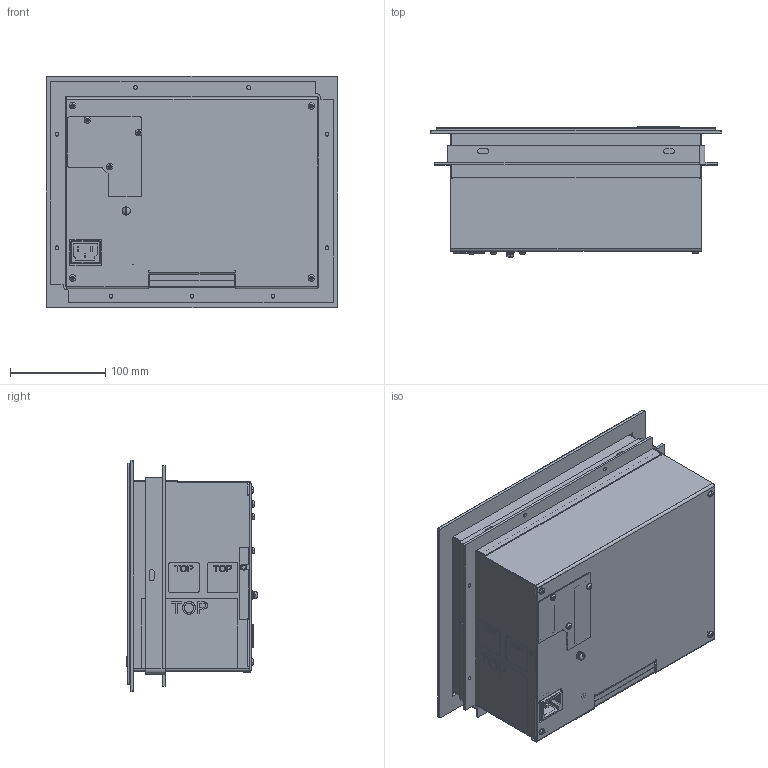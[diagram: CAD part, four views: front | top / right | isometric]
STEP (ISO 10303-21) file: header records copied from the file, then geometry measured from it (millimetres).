
FILE_DESCRIPTION (( 'STEP AP214' ), '1' );
FILE_NAME ('920i_Panel_Mount_Indicator.STEP', '2017-11-10T14:35:01', ( 'n' ), ( 'Microsoft' ), 'SwSTEP 2.0', 'SolidWorks 2014', '' );
FILE_SCHEMA (( 'AUTOMOTIVE_DESIGN' ));
Length unit declared in the file: inch
Products named in the file (60): 71698_NEW; 14626-3-ID_2; 69141-ID_2; 69290_NEW; 15694-ID_2; 67614_920_PANEL-MOUNT_NEW_MODEL; 69144-ID_2; 66502_G_MODEL; 67614A_NEW; 14839-ID_2; 66502A_NEW_MODELNX-ARRAGMNTCABLE ASSEMBLED FOR 115003; 97907_NEW_MODEL; 66502H_NEW; 16892-1-ID_2; 71454-ID_1; 66502G_NEW; 16861-2-ID_1; 71106_J_MODEL; 66502F_NEW; 69176_G_MODEL; BOARD-SUPPORT_A_MODEL; 66502D_NEW; PEM_BSO-440-8_NEW; 103444_NEW; 66502C_NEW; 66502B_NEW; 69142_J; 69145_J_MODEL; 105105_NEW; SO4-440-12_NEW; SP-032-1_NEW; FH4-440-5_NEW; 68216_NEW; PEM_BSO4-6440-12_NEW; 43388-1-ID_1; 22917_NEW; 14822-ID_3; 15631_NEW; 68661_NEW; 69143_L_MODEL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
Assembly tree (106 placements, depth 4):
  920i_Panel_Mount_Indicator
    14822-ID_3  x13
    43388-1-ID_1
    68216_NEW
    66502_G_MODEL
      66502_G_MODEL
      66502A_NEW_MODELNX-ARRAGMNTCABLE ASSEMBLED FOR 115003
        66502A_NEW_MODELNX-ARRAGMNTCABLE ASSEMBLED FOR 115003
        66502B_NEW
        66502C_NEW
        66502D_NEW
        66502F_NEW
        66502G_NEW
        66502H_NEW
    15694-ID_2
    14626-3-ID_2  x4
    15134_NEW  x3
    71520-ID_1
    14618_1_NEW  x2
    67886_NEW  x4
    68661_NEW  x2
    22917_NEW  x2
    69142_J
      69142_J
      SP-032-1_NEW
      105105_NEW
    69176_G_MODEL
      69176_G_MODEL
      PEM_BSO-440-8_NEW  x6
    16861-2-ID_1
    16892-1-ID_2
    67614_920_PANEL-MOUNT_NEW_MODEL
      67614_920_PANEL-MOUNT_NEW_MODEL
      67614A_NEW
    69141-ID_2
    71106_J_MODEL
      69143_L_MODEL
        69143_L_MODEL
        PEM_FH4-832-6_NEW  x7
        TIE_BAR_NEW
        CROSS-BRACE_NEW
      69145_J_MODEL
        69145_J_MODEL
        PEM_BSO4-6440-12_NEW  x4
        FH4-440-5_NEW  x2
        SO4-440-12_NEW  x2
      BOARD-SUPPORT_A_MODEL
        BOARD-SUPPORT_A_MODEL
        103444_NEW
    97907_NEW_MODEL
      71454-ID_1
    14839-ID_2  x7
    69144-ID_2
    69290_NEW
    71698_NEW  x2
    53308_A  x2
    53307_NEW
    87608_NEW
    71095_NEW
    15631_NEW
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Bounding box: 306.32 x 137.79 x 243.08 mm (x, y, z)
Volume: 689235.3 mm3; surface area: 1060380.1 mm2
Topology: 125 solids, 125 shells, 4106 faces, 10451 edges, 6800 vertices
Faces by surface type: plane 2572, cylinder 1145, bspline 269, cone 92, torus 28
Entity records: 136295 total; most frequent: CARTESIAN_POINT 32499, ORIENTED_EDGE 13976, DIRECTION 13170, EDGE_CURVE 6988, VECTOR 5008, LINE 5008, VERTEX_POINT 4570, AXIS2_PLACEMENT_3D 4081
